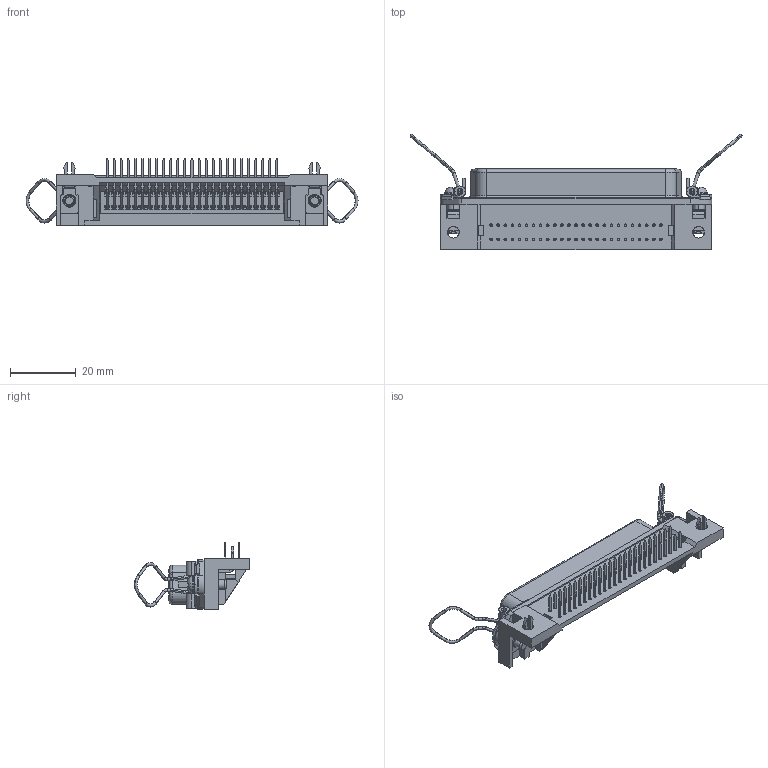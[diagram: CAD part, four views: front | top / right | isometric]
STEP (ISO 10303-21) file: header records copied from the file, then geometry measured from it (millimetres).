
FILE_DESCRIPTION (( 'STEP AP203' ), '1' );
FILE_NAME ('57LE-40500-7700(D29)-FA.STEP', '2021-05-17T03:00:28', ( '' ), ( '' ), 'SwSTEP 2.0', 'SolidWorks 2018', '' );
FILE_SCHEMA (( 'CONFIG_CONTROL_DESIGN' ));
Products named in the file (1): 57LE-40500-7700(D29)-FA
Bounding box: 101.33 x 35.16 x 20.44 mm (x, y, z)
Volume: 12783.9 mm3; surface area: 15950.7 mm2
Topology: 1 solids, 5 shells, 2320 faces, 6481 edges, 4153 vertices
Faces by surface type: plane 1678, cylinder 430, cone 108, torus 72, bspline 32
Entity records: 74548 total; most frequent: CARTESIAN_POINT 14043, ORIENTED_EDGE 12954, DIRECTION 12225, EDGE_CURVE 6477, VECTOR 5019, LINE 5019, VERTEX_POINT 4153, AXIS2_PLACEMENT_3D 3603
